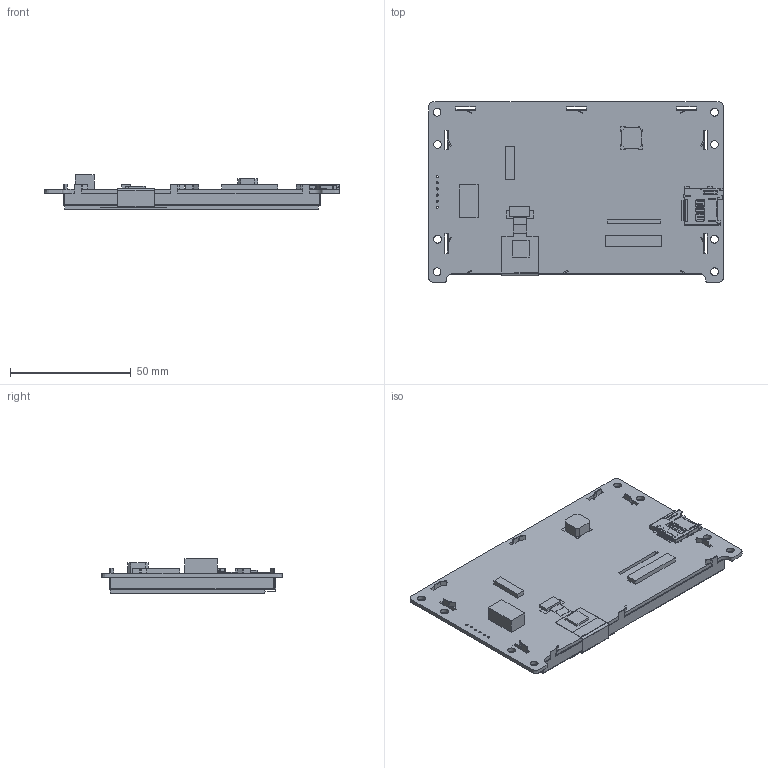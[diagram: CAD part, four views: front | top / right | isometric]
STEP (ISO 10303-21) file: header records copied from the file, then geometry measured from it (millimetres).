
FILE_DESCRIPTION(/* description */ (''),/* implementation_level */ '2;1');
FILE_NAME(/* name */ '',/* time_stamp */ '2023-10-19T15:25:19+08:00',/* author */ (''),/* organization */ (''),/* preprocessor_version */ 'ST-DEVELOPER v11',/* originating_system */ 'SIEMENS PLM Software NX 7.5',/* authorisation */ '');
FILE_SCHEMA (('AP203_CONFIGURATION_CONTROLLED_3D_DESIGN_OF_MECHANICAL_PARTS_AND_ASSEMBLIES_MIM_LF'));
Length unit declared in the file: millimetre
Products named in the file (1): SDWn043C33C
Bounding box: 121.9 x 74.7 x 14.22 mm (x, y, z)
Volume: 26141.6 mm3; surface area: 43217.1 mm2
Topology: 16 solids, 16 shells, 1231 faces, 3491 edges, 2269 vertices
Faces by surface type: plane 938, cylinder 291, cone 1, extrusion 1
Full cylindrical faces by diameter (mm): 0.889 x6, 3.2 x8
Entity records: 40724 total; most frequent: CARTESIAN_POINT 7139, ORIENTED_EDGE 6952, DIRECTION 6517, EDGE_CURVE 3476, VECTOR 2879, LINE 2878, VERTEX_POINT 2269, AXIS2_PLACEMENT_3D 1819
